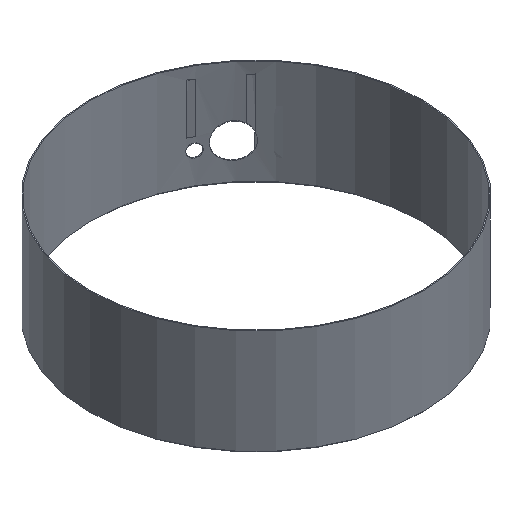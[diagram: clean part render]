
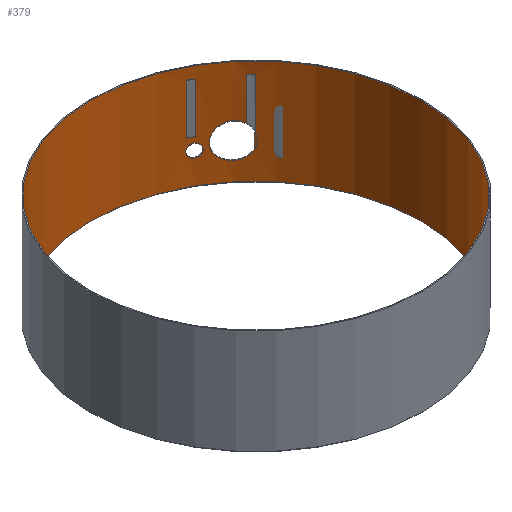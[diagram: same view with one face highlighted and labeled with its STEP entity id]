
A CAD part, isometric view. The second image highlights one B-rep face of the part: STEP entity #379.
In plain terms, the highlighted cylindrical face has radius 13.09 mm (diameter 26.18 mm), a full revolution.
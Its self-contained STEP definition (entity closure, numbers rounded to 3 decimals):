
#295 = EDGE_CURVE('',#296,#296,#298,.T.);
#296 = VERTEX_POINT('',#297);
#297 = CARTESIAN_POINT('',(13.09,0.,-4.15));
#298 = CIRCLE('',#299,13.09);
#299 = AXIS2_PLACEMENT_3D('',#300,#301,#302);
#300 = CARTESIAN_POINT('',(0.,0.,-4.15));
#301 = DIRECTION('',(0.,0.,1.));
#302 = DIRECTION('',(1.,0.,0.));
#315 = EDGE_CURVE('',#316,#316,#318,.T.);
#316 = VERTEX_POINT('',#317);
#317 = CARTESIAN_POINT('',(13.09,0.,4.15));
#318 = CIRCLE('',#319,13.09);
#319 = AXIS2_PLACEMENT_3D('',#320,#321,#322);
#320 = CARTESIAN_POINT('',(0.,0.,4.15));
#321 = DIRECTION('',(0.,0.,1.));
#322 = DIRECTION('',(1.,0.,0.));
#334 = VERTEX_POINT('',#335);
#335 = CARTESIAN_POINT('',(6.921,11.111,-1.7));
#341 = EDGE_CURVE('',#334,#334,#342,.T.);
#342 = B_SPLINE_CURVE_WITH_KNOTS('',8,(#343,#344,#345,#346,#347,#348,
    #349,#350,#351,#352,#353,#354,#355,#356,#357,#358,#359,#360,#361,
    #362,#363,#364,#365,#366,#367,#368,#369,#370,#371,#372),
  .UNSPECIFIED.,.T.,.F.,(9,7,7,7,9),(0.,0.25,0.5,
    0.75,1.),.UNSPECIFIED.);
#343 = CARTESIAN_POINT('',(6.921,11.111,-1.7));
#344 = CARTESIAN_POINT('',(6.921,11.111,
    -1.793));
#345 = CARTESIAN_POINT('',(6.904,11.121,
    -1.888));
#346 = CARTESIAN_POINT('',(6.869,11.143,
    -1.979));
#347 = CARTESIAN_POINT('',(6.817,11.175,
    -2.06));
#348 = CARTESIAN_POINT('',(6.749,11.216,
    -2.127));
#349 = CARTESIAN_POINT('',(6.669,11.264,
    -2.175));
#350 = CARTESIAN_POINT('',(6.581,11.316,-2.2));
#351 = CARTESIAN_POINT('',(6.398,11.42,-2.2));
#352 = CARTESIAN_POINT('',(6.309,11.47,-2.175
    ));
#353 = CARTESIAN_POINT('',(6.226,11.515,
    -2.127));
#354 = CARTESIAN_POINT('',(6.156,11.553,
    -2.061));
#355 = CARTESIAN_POINT('',(6.101,11.581,
    -1.979));
#356 = CARTESIAN_POINT('',(6.064,11.601,
    -1.888));
#357 = CARTESIAN_POINT('',(6.047,11.61,
    -1.793));
#358 = CARTESIAN_POINT('',(6.047,11.61,-1.607
    ));
#359 = CARTESIAN_POINT('',(6.064,11.601,
    -1.512));
#360 = CARTESIAN_POINT('',(6.101,11.581,-1.421)
  );
#361 = CARTESIAN_POINT('',(6.156,11.553,
    -1.339));
#362 = CARTESIAN_POINT('',(6.226,11.515,
    -1.273));
#363 = CARTESIAN_POINT('',(6.309,11.47,-1.225
    ));
#364 = CARTESIAN_POINT('',(6.398,11.42,-1.2));
#365 = CARTESIAN_POINT('',(6.581,11.316,-1.2));
#366 = CARTESIAN_POINT('',(6.669,11.264,
    -1.225));
#367 = CARTESIAN_POINT('',(6.749,11.216,-1.273)
  );
#368 = CARTESIAN_POINT('',(6.817,11.175,
    -1.34));
#369 = CARTESIAN_POINT('',(6.869,11.143,
    -1.421));
#370 = CARTESIAN_POINT('',(6.904,11.121,
    -1.512));
#371 = CARTESIAN_POINT('',(6.921,11.111,
    -1.607));
#372 = CARTESIAN_POINT('',(6.921,11.111,-1.7));
#379 = ADVANCED_FACE('',(#380,#391,#484,#487),#523,.F.);
#380 = FACE_BOUND('',#381,.F.);
#381 = EDGE_LOOP('',(#382,#388,#389,#390));
#382 = ORIENTED_EDGE('',*,*,#383,.F.);
#383 = EDGE_CURVE('',#296,#316,#384,.T.);
#384 = LINE('',#385,#386);
#385 = CARTESIAN_POINT('',(13.09,0.,-5.1));
#386 = VECTOR('',#387,1.);
#387 = DIRECTION('',(0.,0.,1.));
#388 = ORIENTED_EDGE('',*,*,#295,.T.);
#389 = ORIENTED_EDGE('',*,*,#383,.T.);
#390 = ORIENTED_EDGE('',*,*,#315,.F.);
#391 = FACE_BOUND('',#392,.F.);
#392 = EDGE_LOOP('',(#393,#404,#412,#421,#429,#478));
#393 = ORIENTED_EDGE('',*,*,#394,.F.);
#394 = EDGE_CURVE('',#395,#397,#399,.T.);
#395 = VERTEX_POINT('',#396);
#396 = CARTESIAN_POINT('',(9.235,9.277,-0.75));
#397 = VERTEX_POINT('',#398);
#398 = CARTESIAN_POINT('',(9.205,9.306,-0.75));
#399 = CIRCLE('',#400,13.09);
#400 = AXIS2_PLACEMENT_3D('',#401,#402,#403);
#401 = CARTESIAN_POINT('',(0.,0.,-0.75));
#402 = DIRECTION('',(0.,0.,1.));
#403 = DIRECTION('',(1.,0.,0.));
#404 = ORIENTED_EDGE('',*,*,#405,.T.);
#405 = EDGE_CURVE('',#395,#406,#408,.T.);
#406 = VERTEX_POINT('',#407);
#407 = CARTESIAN_POINT('',(9.235,9.277,3.2));
#408 = LINE('',#409,#410);
#409 = CARTESIAN_POINT('',(9.235,9.277,-5.1));
#410 = VECTOR('',#411,1.);
#411 = DIRECTION('',(0.,0.,1.));
#412 = ORIENTED_EDGE('',*,*,#413,.T.);
#413 = EDGE_CURVE('',#406,#414,#416,.T.);
#414 = VERTEX_POINT('',#415);
#415 = CARTESIAN_POINT('',(8.867,9.63,3.2));
#416 = CIRCLE('',#417,13.09);
#417 = AXIS2_PLACEMENT_3D('',#418,#419,#420);
#418 = CARTESIAN_POINT('',(0.,0.,3.2));
#419 = DIRECTION('',(0.,0.,1.));
#420 = DIRECTION('',(1.,0.,0.));
#421 = ORIENTED_EDGE('',*,*,#422,.F.);
#422 = EDGE_CURVE('',#423,#414,#425,.T.);
#423 = VERTEX_POINT('',#424);
#424 = CARTESIAN_POINT('',(8.867,9.63,-0.165
    ));
#425 = LINE('',#426,#427);
#426 = CARTESIAN_POINT('',(8.867,9.63,-5.1));
#427 = VECTOR('',#428,1.);
#428 = DIRECTION('',(0.,0.,1.));
#429 = ORIENTED_EDGE('',*,*,#430,.F.);
#430 = EDGE_CURVE('',#431,#423,#433,.T.);
#431 = VERTEX_POINT('',#432);
#432 = CARTESIAN_POINT('',(9.205,9.306,-1.927
    ));
#433 = B_SPLINE_CURVE_WITH_KNOTS('',7,(#434,#435,#436,#437,#438,#439,
    #440,#441,#442,#443,#444,#445,#446,#447,#448,#449,#450,#451,#452,
    #453,#454,#455,#456,#457,#458,#459,#460,#461,#462,#463,#464,#465,
    #466,#467,#468,#469,#470,#471,#472,#473,#474,#475,#476,#477),
  .UNSPECIFIED.,.F.,.F.,(8,6,6,6,6,6,6,8),(0.,0.162,
    0.307,0.4,0.5,0.639,
    0.801,1.),.UNSPECIFIED.);
#434 = CARTESIAN_POINT('',(9.205,9.306,-1.927
    ));
#435 = CARTESIAN_POINT('',(9.155,9.356,-2.061
    ));
#436 = CARTESIAN_POINT('',(9.09,9.42,-2.191)
  );
#437 = CARTESIAN_POINT('',(9.009,9.498,-2.312
    ));
#438 = CARTESIAN_POINT('',(8.913,9.589,-2.419)
  );
#439 = CARTESIAN_POINT('',(8.802,9.691,-2.509
    ));
#440 = CARTESIAN_POINT('',(8.677,9.803,-2.577
    ));
#441 = CARTESIAN_POINT('',(8.416,10.027,
    -2.654));
#442 = CARTESIAN_POINT('',(8.285,10.137,-2.667)
  );
#443 = CARTESIAN_POINT('',(8.152,10.244,
    -2.655));
#444 = CARTESIAN_POINT('',(8.021,10.347,-2.618
    ));
#445 = CARTESIAN_POINT('',(7.897,10.441,
    -2.559));
#446 = CARTESIAN_POINT('',(7.784,10.525,
    -2.481));
#447 = CARTESIAN_POINT('',(7.622,10.642,
    -2.336));
#448 = CARTESIAN_POINT('',(7.564,10.684,
    -2.274));
#449 = CARTESIAN_POINT('',(7.511,10.721,
    -2.208));
#450 = CARTESIAN_POINT('',(7.463,10.754,-2.138)
  );
#451 = CARTESIAN_POINT('',(7.42,10.784,
    -2.065));
#452 = CARTESIAN_POINT('',(7.383,10.81,
    -1.99));
#453 = CARTESIAN_POINT('',(7.315,10.855,
    -1.83));
#454 = CARTESIAN_POINT('',(7.286,10.875,-1.744
    ));
#455 = CARTESIAN_POINT('',(7.263,10.891,-1.657)
  );
#456 = CARTESIAN_POINT('',(7.245,10.902,
    -1.568));
#457 = CARTESIAN_POINT('',(7.234,10.91,
    -1.479));
#458 = CARTESIAN_POINT('',(7.228,10.914,
    -1.39));
#459 = CARTESIAN_POINT('',(7.228,10.914,-1.176
    ));
#460 = CARTESIAN_POINT('',(7.239,10.906,
    -1.052));
#461 = CARTESIAN_POINT('',(7.261,10.892,
    -0.929));
#462 = CARTESIAN_POINT('',(7.294,10.87,
    -0.809));
#463 = CARTESIAN_POINT('',(7.339,10.84,
    -0.691));
#464 = CARTESIAN_POINT('',(7.395,10.801,
    -0.579));
#465 = CARTESIAN_POINT('',(7.541,10.7,
    -0.349));
#466 = CARTESIAN_POINT('',(7.638,10.632,
    -0.231));
#467 = CARTESIAN_POINT('',(7.752,10.55,
    -0.126));
#468 = CARTESIAN_POINT('',(7.881,10.455,
    -0.041));
#469 = CARTESIAN_POINT('',(8.02,10.348,
    0.019));
#470 = CARTESIAN_POINT('',(8.166,10.232,0.05));
#471 = CARTESIAN_POINT('',(8.495,9.962,0.05));
#472 = CARTESIAN_POINT('',(8.666,9.815,
    0.003));
#473 = CARTESIAN_POINT('',(8.819,9.677,
    -0.085));
#474 = CARTESIAN_POINT('',(8.951,9.554,-0.206)
  );
#475 = CARTESIAN_POINT('',(9.06,9.45,-0.351
    ));
#476 = CARTESIAN_POINT('',(9.144,9.367,-0.51
    ));
#477 = CARTESIAN_POINT('',(9.205,9.306,-0.673
    ));
#478 = ORIENTED_EDGE('',*,*,#479,.T.);
#479 = EDGE_CURVE('',#431,#397,#480,.T.);
#480 = LINE('',#481,#482);
#481 = CARTESIAN_POINT('',(9.205,9.306,-5.1));
#482 = VECTOR('',#483,1.);
#483 = DIRECTION('',(0.,0.,1.));
#484 = FACE_BOUND('',#485,.F.);
#485 = EDGE_LOOP('',(#486));
#486 = ORIENTED_EDGE('',*,*,#341,.F.);
#487 = FACE_BOUND('',#488,.F.);
#488 = EDGE_LOOP('',(#489,#500,#508,#517));
#489 = ORIENTED_EDGE('',*,*,#490,.F.);
#490 = EDGE_CURVE('',#491,#493,#495,.T.);
#491 = VERTEX_POINT('',#492);
#492 = CARTESIAN_POINT('',(6.538,11.341,-0.75));
#493 = VERTEX_POINT('',#494);
#494 = CARTESIAN_POINT('',(6.091,11.586,-0.75));
#495 = CIRCLE('',#496,13.09);
#496 = AXIS2_PLACEMENT_3D('',#497,#498,#499);
#497 = CARTESIAN_POINT('',(0.,0.,-0.75));
#498 = DIRECTION('',(0.,0.,1.));
#499 = DIRECTION('',(1.,0.,0.));
#500 = ORIENTED_EDGE('',*,*,#501,.T.);
#501 = EDGE_CURVE('',#491,#502,#504,.T.);
#502 = VERTEX_POINT('',#503);
#503 = CARTESIAN_POINT('',(6.538,11.341,3.2));
#504 = LINE('',#505,#506);
#505 = CARTESIAN_POINT('',(6.538,11.341,-5.1));
#506 = VECTOR('',#507,1.);
#507 = DIRECTION('',(0.,0.,1.));
#508 = ORIENTED_EDGE('',*,*,#509,.T.);
#509 = EDGE_CURVE('',#502,#510,#512,.T.);
#510 = VERTEX_POINT('',#511);
#511 = CARTESIAN_POINT('',(6.091,11.586,3.2));
#512 = CIRCLE('',#513,13.09);
#513 = AXIS2_PLACEMENT_3D('',#514,#515,#516);
#514 = CARTESIAN_POINT('',(0.,0.,3.2));
#515 = DIRECTION('',(0.,0.,1.));
#516 = DIRECTION('',(1.,0.,0.));
#517 = ORIENTED_EDGE('',*,*,#518,.F.);
#518 = EDGE_CURVE('',#493,#510,#519,.T.);
#519 = LINE('',#520,#521);
#520 = CARTESIAN_POINT('',(6.091,11.586,-5.1));
#521 = VECTOR('',#522,1.);
#522 = DIRECTION('',(0.,0.,1.));
#523 = CYLINDRICAL_SURFACE('',#524,13.09);
#524 = AXIS2_PLACEMENT_3D('',#525,#526,#527);
#525 = CARTESIAN_POINT('',(0.,0.,-5.1));
#526 = DIRECTION('',(0.,0.,1.));
#527 = DIRECTION('',(1.,0.,0.));
